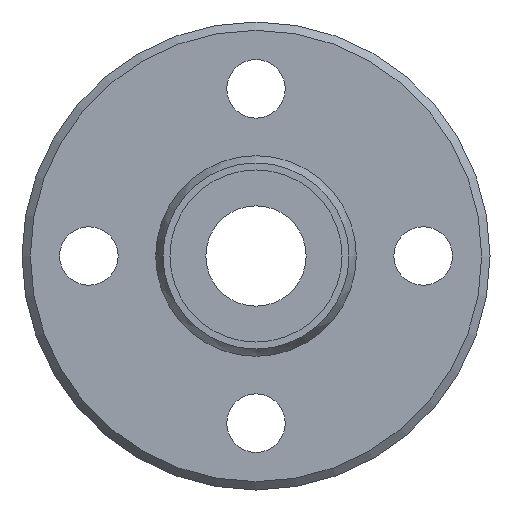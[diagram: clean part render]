
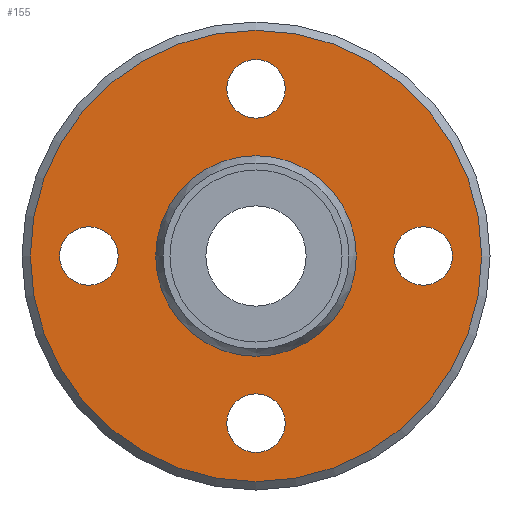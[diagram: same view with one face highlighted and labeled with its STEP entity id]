
A CAD part, left-side view. The second image highlights one B-rep face of the part: STEP entity #155.
In plain terms, the highlighted planar face has unit normal (-1, 0, 0).
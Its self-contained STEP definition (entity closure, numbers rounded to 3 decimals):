
#60=CARTESIAN_POINT('',(5.,0.,13.5));
#61=VERTEX_POINT('',#60);
#62=CARTESIAN_POINT('',(5.,0.0,0.0));
#63=DIRECTION('',(1.0,0.0,0.0));
#64=DIRECTION('',(0.0,0.0,-1.0));
#65=AXIS2_PLACEMENT_3D('',#62,#63,#64);
#66=CIRCLE('',#65,13.5);
#67=EDGE_CURVE('',#61,#61,#66,.T.);
#92=CARTESIAN_POINT('',(5.,0.0,9.905));
#93=DIRECTION('',(-1.0,0.0,0.0));
#94=DIRECTION('',(0.0,0.0,1.0));
#95=AXIS2_PLACEMENT_3D('',#92,#93,#94);
#96=PLANE('',#95);
#97=ORIENTED_EDGE('',*,*,#67,.F.);
#98=EDGE_LOOP('',(#97));
#99=FACE_OUTER_BOUND('',#98,.T.);
#100=CARTESIAN_POINT('',(5.0,0.0,5.809));
#101=VERTEX_POINT('',#100);
#102=CARTESIAN_POINT('',(5.0,0.0,0.0));
#103=DIRECTION('',(-1.0,0.0,0.0));
#104=DIRECTION('',(0.0,0.0,1.0));
#105=AXIS2_PLACEMENT_3D('',#102,#103,#104);
#106=CIRCLE('',#105,5.809);
#107=EDGE_CURVE('',#101,#101,#106,.T.);
#108=ORIENTED_EDGE('',*,*,#107,.F.);
#109=EDGE_LOOP('',(#108));
#110=FACE_BOUND('',#109,.T.);
#111=CARTESIAN_POINT('',(5.0,8.25,0.));
#112=VERTEX_POINT('',#111);
#113=CARTESIAN_POINT('',(5.0,10.0,0.));
#114=DIRECTION('',(1.0,0.0,0.0));
#115=DIRECTION('',(0.0,1.0,0.0));
#116=AXIS2_PLACEMENT_3D('',#113,#114,#115);
#117=CIRCLE('',#116,1.75);
#118=EDGE_CURVE('',#112,#112,#117,.T.);
#119=ORIENTED_EDGE('',*,*,#118,.T.);
#120=EDGE_LOOP('',(#119));
#121=FACE_BOUND('',#120,.T.);
#122=CARTESIAN_POINT('',(5.0,-11.75,0.));
#123=VERTEX_POINT('',#122);
#124=CARTESIAN_POINT('',(5.0,-10.0,0.0));
#125=DIRECTION('',(1.0,0.0,0.0));
#126=DIRECTION('',(0.0,1.0,0.0));
#127=AXIS2_PLACEMENT_3D('',#124,#125,#126);
#128=CIRCLE('',#127,1.75);
#129=EDGE_CURVE('',#123,#123,#128,.T.);
#130=ORIENTED_EDGE('',*,*,#129,.T.);
#131=EDGE_LOOP('',(#130));
#132=FACE_BOUND('',#131,.T.);
#133=CARTESIAN_POINT('',(5.0,-1.75,10.0));
#134=VERTEX_POINT('',#133);
#135=CARTESIAN_POINT('',(5.0,0.,10.0));
#136=DIRECTION('',(1.0,0.0,0.0));
#137=DIRECTION('',(0.0,1.0,0.0));
#138=AXIS2_PLACEMENT_3D('',#135,#136,#137);
#139=CIRCLE('',#138,1.75);
#140=EDGE_CURVE('',#134,#134,#139,.T.);
#141=ORIENTED_EDGE('',*,*,#140,.T.);
#142=EDGE_LOOP('',(#141));
#143=FACE_BOUND('',#142,.T.);
#144=CARTESIAN_POINT('',(5.0,-1.75,-10.0));
#145=VERTEX_POINT('',#144);
#146=CARTESIAN_POINT('',(5.0,0.,-10.0));
#147=DIRECTION('',(1.0,0.0,0.0));
#148=DIRECTION('',(0.0,1.0,0.0));
#149=AXIS2_PLACEMENT_3D('',#146,#147,#148);
#150=CIRCLE('',#149,1.75);
#151=EDGE_CURVE('',#145,#145,#150,.T.);
#152=ORIENTED_EDGE('',*,*,#151,.T.);
#153=EDGE_LOOP('',(#152));
#154=FACE_BOUND('',#153,.T.);
#155=ADVANCED_FACE('',(#99,#110,#121,#132,#143,#154),#96,.T.);
